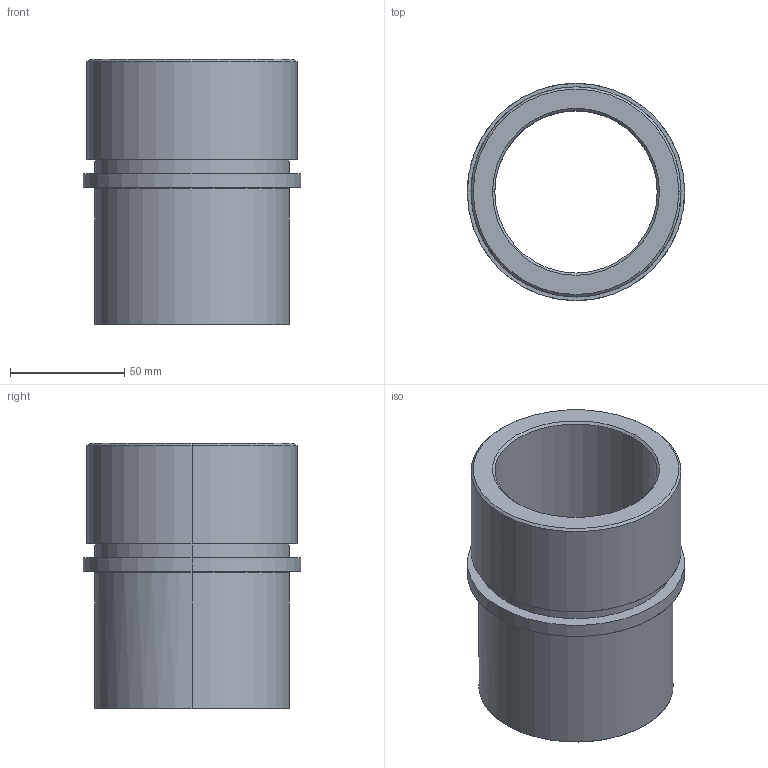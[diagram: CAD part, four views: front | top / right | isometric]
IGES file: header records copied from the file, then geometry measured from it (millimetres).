
Start section: START RECORD GO HERE.
Global section: file name: 735-63.igs; native system: DASSAULT SYSTEMES CATIA V5 R20 - www.3ds.com; preprocessor: CATIA Version 5 Release 20 ; author: Utente; organization: NB04-ASUS; date: 20210116.201622; units: millimetre
Bounding box: 95 x 95 x 116 mm (x, y, z)
Surface area: 66127.5 mm2 (no closed solid volume)
Topology: 0 solids, 0 shells, 25 faces, 100 edges, 100 vertices
Faces by surface type: revolution 20, plane 5
